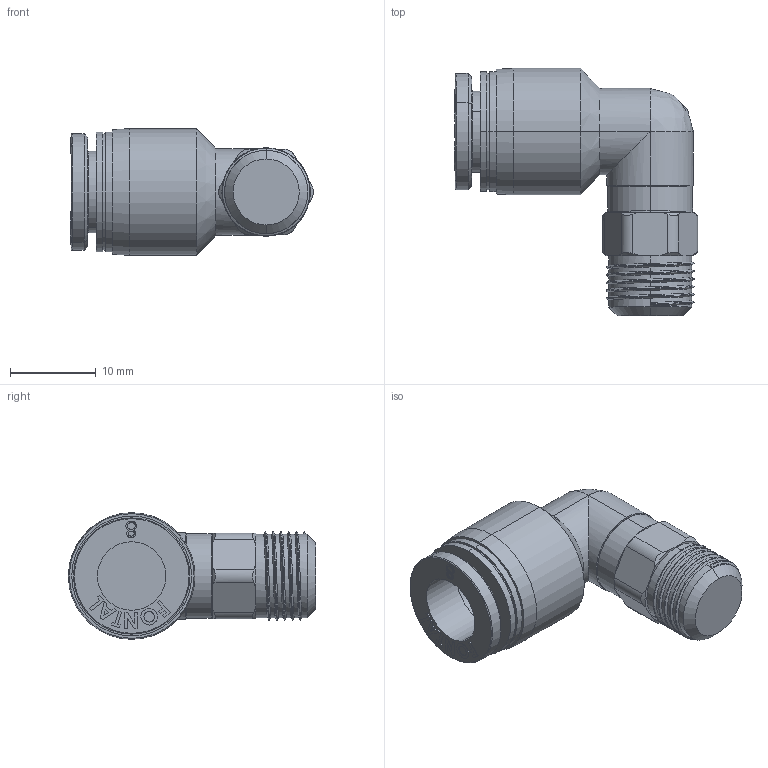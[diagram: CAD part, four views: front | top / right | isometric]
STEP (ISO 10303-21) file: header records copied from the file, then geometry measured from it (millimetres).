
FILE_DESCRIPTION (( 'STEP AP203' ), '1' );
FILE_NAME ('FPL8-01.STEP', '2016-01-14T21:04:10', ( '' ), ( '' ), 'SwSTEP 2.0', 'SolidWorks 2014', '' );
FILE_SCHEMA (( 'CONFIG_CONTROL_DESIGN' ));
Length unit declared in the file: millimetre
Products named in the file (4): FPL8-01-A; FPL8-01-B; FPL8-01; FPC8-01-A
Assembly tree (3 placements, depth 2):
  FPL8-01
    FPL8-01-A
    FPC8-01-A
    FPL8-01-B
Bounding box: 28.42 x 28.9 x 14.8 mm (x, y, z)
Volume: 3711.8 mm3; surface area: 2903.3 mm2
Topology: 3 solids, 3 shells, 184 faces, 461 edges, 298 vertices
Faces by surface type: plane 82, cylinder 42, bspline 32, cone 22, torus 6
Entity records: 9126 total; most frequent: CARTESIAN_POINT 4622, ORIENTED_EDGE 918, DIRECTION 733, EDGE_CURVE 459, VERTEX_POINT 298, AXIS2_PLACEMENT_3D 246, LINE 241, VECTOR 241
